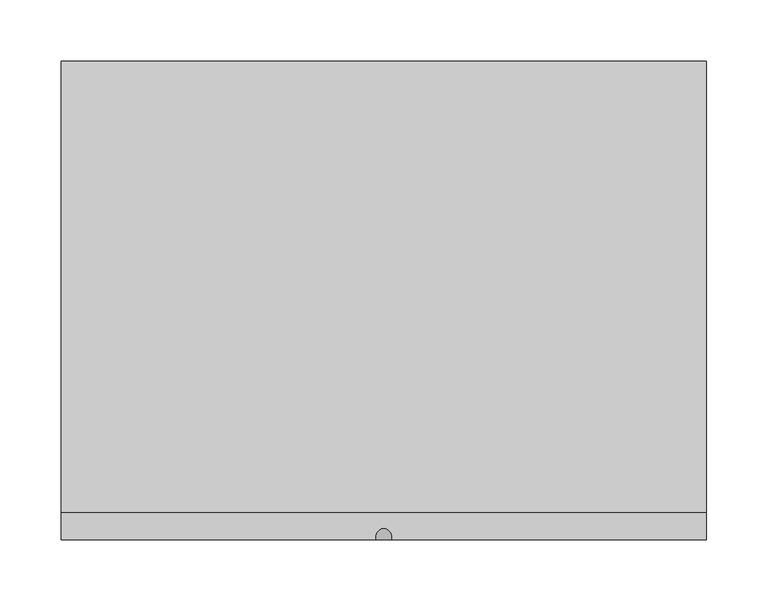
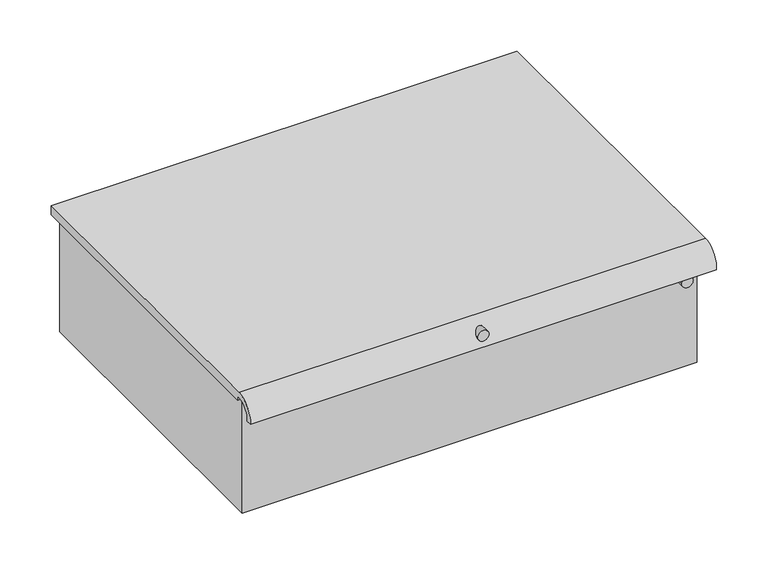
"""IFC4 building model written with IfcOpenShell, lengths in millimetres: furniture geometry."""

from ifc_helpers import new_model, si_unit, point, frame, frame_2d, origin, place, context, project, spatial, polyline, circle_curve, trimmed, segment, composite_curve, outline, extrude, source, transform, mapped, element, save
from ifc_brep_helpers import plane_surface, cylinder_surface, revolved_surface, advanced_brep


def furniture_2f78b053(model_context):
    return source(origin(), model_context, "Body", "SolidModel", [
        extrude(outline(composite_curve([segment(trimmed(circle_curve(frame_2d((834.41794, 231.9974999)), 6.35), [point((834.41794, 238.3474999))], [point((834.41794, 225.6474999))], False, "CARTESIAN"), True, "CONTINUOUS"), segment(trimmed(circle_curve(frame_2d((834.41794, 231.9974999)), 6.35), [point((834.41794, 225.6474999))], [point((834.41794, 238.3474999))], False, "CARTESIAN"), True, "CONTINUOUS")], self_intersect=False)), frame((0.0, -182.5625, 0.0), z_axis=(0.0, 1.0, 0.0), x_axis=(0.0, 0.0, 1.0)), (0.0, 0.0, 1.0), 14.3002),
        extrude(outline(composite_curve([segment(trimmed(circle_curve(frame_2d((861.41814, -6.1275001)), 6.35), [point((861.41814, 0.2224999))], [point((861.41814, -12.4775001))], False, "CARTESIAN"), True, "CONTINUOUS"), segment(trimmed(circle_curve(frame_2d((861.41814, -6.1275001)), 6.35), [point((861.41814, -12.4775001))], [point((861.41814, 0.2224999))], False, "CARTESIAN"), True, "CONTINUOUS")], self_intersect=False)), frame((0.0, -195.2625, 0.0), z_axis=(0.0, 1.0, 0.0), x_axis=(0.0, 0.0, 1.0)), (0.0, 0.0, 1.0), 27.0002),
        advanced_brep(
        [(-263.3025001, -168.2623, 723.29294), (251.0474999, -168.2623, 723.29294), (251.0474999, -168.2623, 861.41814), (-263.3025001, -168.2623, 861.41814), (251.0474999, 188.9125, 723.29294), (-263.3025001, 188.9125, 723.29294), (-263.3025001, 188.9125, 861.41814), (251.0474999, 188.9125, 861.41814), (257.3974999, -173.1367188, 872.51794), (257.3974999, 195.2625, 872.51794), (-269.6525001, 195.2625, 872.51794), (-269.6525001, -173.1367188, 872.51794), (257.3974999, -195.2625, 847.87486), (257.3974999, -188.8606628, 847.87486), (257.3974999, -173.1367188, 866.16794), (257.3974999, -169.8625, 866.16794), (257.3974999, -169.8625, 861.41814), (257.3974999, 195.2625, 861.41814), (-269.6525001, 195.2625, 861.41814), (-269.6525001, -169.8625, 861.41814), (-269.6525001, -169.8625, 866.16794), (-269.6525001, -173.1367188, 866.16794), (-269.6525001, -188.8606628, 847.87486), (-269.6525001, -195.2625, 847.87486)],
        [
            (0, 1),
            (1, 2),
            (2, 3),
            (3, 0),
            (4, 5),
            (5, 6),
            (6, 7),
            (7, 4),
            (0, 5),
            (4, 1),
            (7, 2),
            (8, 9),
            (9, 10),
            (10, 11),
            (11, 8),
            (3, 6),
            (8, 12, circle_curve(frame((257.3974999, -173.1367188, 850.2635873), z_axis=(1.0, 0.0, 0.0), x_axis=(0.0, 1.0, 0.0)), 22.2543527)),
            (12, 13),
            (13, 14, circle_curve(frame((257.3974999, -173.1367188, 850.2635873), z_axis=(-1.0, 0.0, 0.0), x_axis=(0.0, 1.0, 0.0)), 15.9043527)),
            (14, 15),
            (15, 16),
            (16, 17),
            (17, 9),
            (10, 18),
            (18, 19),
            (19, 20),
            (20, 21),
            (21, 22, circle_curve(frame((-269.6525001, -173.1367188, 850.2635873), z_axis=(1.0, 0.0, 0.0), x_axis=(0.0, 1.0, 0.0)), 15.9043527)),
            (22, 23),
            (23, 11, circle_curve(frame((-269.6525001, -173.1367188, 850.2635873), z_axis=(-1.0, 0.0, 0.0), x_axis=(0.0, 1.0, 0.0)), 22.2543527)),
            (23, 12),
            (22, 13),
            (21, 14),
            (20, 15),
            (19, 16),
            (18, 17),
        ],
        [
            plane_surface(frame((251.0474999, -168.2623, 723.29294), z_axis=(0.0, -1.0, 0.0), x_axis=(1.0, 0.0, 0.0))),
            plane_surface(frame((251.0474999, 188.9125, 723.29294), z_axis=(0.0, 1.0, 0.0), x_axis=(-1.0, 0.0, 0.0))),
            plane_surface(frame((-263.3025001, -168.2623, 723.29294), z_axis=(0.0, 0.0, -1.0), x_axis=(0.0, 1.0, 0.0))),
            plane_surface(frame((251.0474999, -168.2623, 723.29294), z_axis=(1.0, 0.0, 0.0), x_axis=(0.0, 1.0, 0.0))),
            plane_surface(frame((251.0474999, -168.2623, 872.51794), z_axis=(0.0, 0.0, 1.0), x_axis=(0.0, 1.0, 0.0))),
            plane_surface(frame((-263.3025001, -168.2623, 872.51794), z_axis=(-1.0, 0.0, 0.0), x_axis=(0.0, 1.0, 0.0))),
            plane_surface(frame((257.3974999, 195.2625, 872.51794), z_axis=(1.0, 0.0, 0.0), x_axis=(0.0, -1.0, 0.0))),
            plane_surface(frame((-269.6525001, 195.2625, 872.51794), z_axis=(-1.0, 0.0, 0.0), x_axis=(0.0, 1.0, 0.0))),
            cylinder_surface(frame((-269.6525001, -173.1367188, 850.2635873), z_axis=(1.0, 0.0, 0.0), x_axis=(0.0, 1.0, 0.0)), 22.2543527),
            plane_surface(frame((257.3974999, -195.2625, 847.87486), z_axis=(0.0, 0.0, -1.0), x_axis=(-1.0, 0.0, 0.0))),
            revolved_surface(polyline([(-269.6525001, -157.2323661, 850.2635873), (257.39749989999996, -157.2323661, 850.2635873)]), (-269.6525001, -173.1367188, 850.2635873), (-1.0, 0.0, 0.0)),
            plane_surface(frame((257.3974999, -173.1367188, 866.16794), z_axis=(0.0, 0.0, -1.0), x_axis=(-1.0, 0.0, 0.0))),
            plane_surface(frame((257.3974999, -169.8625, 866.16794), z_axis=(0.0, -1.0, 0.0), x_axis=(-1.0, 0.0, 0.0))),
            plane_surface(frame((257.3974999, -169.8625, 861.41814), z_axis=(0.0, 0.0, -1.0), x_axis=(-1.0, 0.0, 0.0))),
            plane_surface(frame((257.3974999, 195.2625, 861.41814), z_axis=(0.0, 1.0, 0.0), x_axis=(-1.0, 0.0, 0.0))),
        ],
        [
            (0, [[1, 2, 3, 4]]),
            (1, [[5, 6, 7, 8]]),
            (2, [[-1, 9, -5, 10]]),
            (3, [[-10, -8, 11, -2]]),
            (4, [[12, 13, 14, 15]]),
            (5, [[-9, -4, 16, -6]]),
            (6, [[-12, 17, 18, 19, 20, 21, 22, 23]]),
            (7, [[24, 25, 26, 27, 28, 29, 30, -14]]),
            (8, [[-17, -15, -30, 31]]),
            (9, [[-18, -31, -29, 32]]),
            (10, [[-19, -32, -28, 33]]),
            (11, [[-20, -33, -27, 34]]),
            (12, [[-21, -34, -26, 35]]),
            (13, [[-22, -35, -25, 36], [-3, -11, -7, -16]]),
            (14, [[-23, -36, -24, -13]]),
        ],
    ),
    ])


if __name__ == "__main__":
    model = new_model("IFC4")
    model_context = context("Model", 3, world=origin())
    ifc_project = project(units=[si_unit("LENGTHUNIT", "METRE", prefix="MILLI")], contexts=[model_context])
    site = spatial("IfcSite", under=ifc_project)
    building = spatial("IfcBuilding", under=site)
    placement = place(None, origin())
    furniture_shape = furniture_2f78b053(model_context)
    element("IfcFurniture", 1, ObjectType="HermanMiller_CoStruc_CO371_LockedDrawerWithLockableLid : B - 6\"H x 15\"D x 20\"W Lid Wlock", at=placement, inside=building, context=model_context, shape_type="MappedRepresentation", body=[
        mapped(furniture_shape, transform((0.0, 0.0, 0.0), x_axis=(1.0, 0.0, 0.0), y_axis=(0.0, 1.0, 0.0), z_axis=(0.0, 0.0, 1.0))),
    ])
    save(model, "model.ifc")
